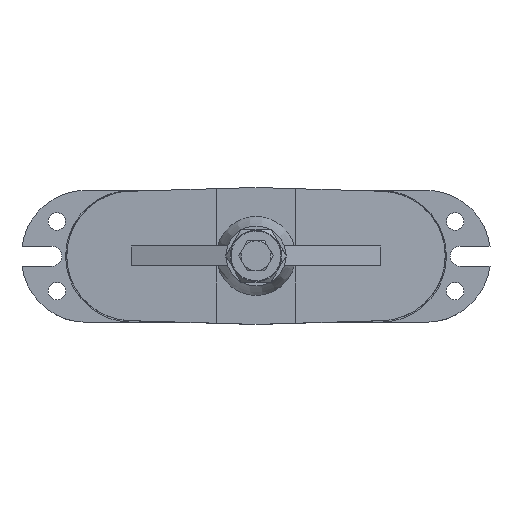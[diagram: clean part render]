
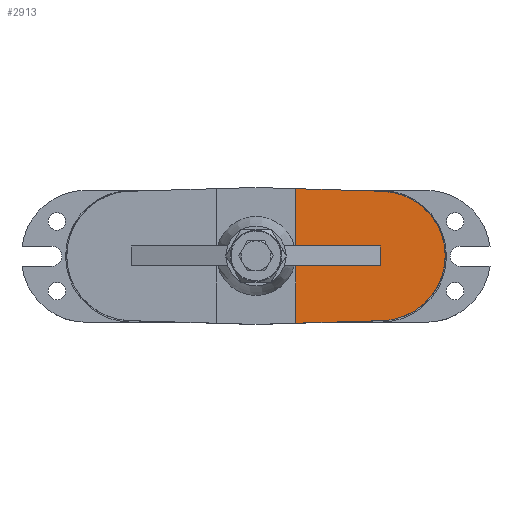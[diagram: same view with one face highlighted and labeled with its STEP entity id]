
A CAD part, top view. The second image highlights one B-rep face of the part: STEP entity #2913.
In plain terms, the highlighted planar face has unit normal (0.033, 0, 0.999).
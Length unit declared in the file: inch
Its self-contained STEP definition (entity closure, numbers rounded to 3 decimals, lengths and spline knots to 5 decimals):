
#65=ELLIPSE('',#3169,1.6259,1.625);
#141=PLANE('',#3177);
#269=LINE('',#4401,#461);
#271=LINE('',#4405,#463);
#274=LINE('',#4411,#466);
#276=LINE('',#4414,#468);
#307=LINE('',#4712,#499);
#315=LINE('',#4729,#507);
#316=LINE('',#4730,#508);
#461=VECTOR('',#3569,1.43898);
#463=VECTOR('',#3573,2.12618);
#466=VECTOR('',#3578,2.12618);
#468=VECTOR('',#3582,0.5);
#499=VECTOR('',#3757,2.17552);
#507=VECTOR('',#3779,2.17552);
#508=VECTOR('',#3780,1.43898);
#727=FACE_OUTER_BOUND('',#929,.T.);
#929=EDGE_LOOP('',(#2228,#2229,#2230,#2231,#2232,#2233,#2234,#2235));
#1277=VERTEX_POINT('',#4398);
#1278=VERTEX_POINT('',#4400);
#1279=VERTEX_POINT('',#4404);
#1280=VERTEX_POINT('',#4408);
#1281=VERTEX_POINT('',#4410);
#1332=VERTEX_POINT('',#4702);
#1333=VERTEX_POINT('',#4704);
#1335=VERTEX_POINT('',#4710);
#1573=EDGE_CURVE('',#1277,#1278,#269,.T.);
#1575=EDGE_CURVE('',#1279,#1278,#271,.T.);
#1578=EDGE_CURVE('',#1281,#1280,#274,.T.);
#1580=EDGE_CURVE('',#1280,#1279,#276,.T.);
#1656=EDGE_CURVE('',#1332,#1333,#65,.T.);
#1660=EDGE_CURVE('',#1335,#1332,#307,.T.);
#1669=EDGE_CURVE('',#1333,#1277,#315,.T.);
#1670=EDGE_CURVE('',#1281,#1335,#316,.T.);
#2228=ORIENTED_EDGE('',*,*,#1575,.T.);
#2229=ORIENTED_EDGE('',*,*,#1573,.F.);
#2230=ORIENTED_EDGE('',*,*,#1669,.F.);
#2231=ORIENTED_EDGE('',*,*,#1656,.F.);
#2232=ORIENTED_EDGE('',*,*,#1660,.F.);
#2233=ORIENTED_EDGE('',*,*,#1670,.F.);
#2234=ORIENTED_EDGE('',*,*,#1578,.T.);
#2235=ORIENTED_EDGE('',*,*,#1580,.T.);
#2913=ADVANCED_FACE('',(#727),#141,.F.);
#3169=AXIS2_PLACEMENT_3D('',#4705,#3750,#3751);
#3177=AXIS2_PLACEMENT_3D('',#4728,#3777,#3778);
#3569=DIRECTION('',(0.,1.,0.));
#3573=DIRECTION('',(-0.999,0.,0.033));
#3578=DIRECTION('',(0.999,0.,-0.033));
#3582=DIRECTION('',(0.,-1.,0.));
#3750=DIRECTION('center_axis',(-0.033,0.,
-0.999));
#3751=DIRECTION('ref_axis',(0.999,0.,-0.033));
#3757=DIRECTION('',(0.999,-0.03,-0.033));
#3777=DIRECTION('center_axis',(-0.033,0.,
-0.999));
#3778=DIRECTION('ref_axis',(0.999,0.,-0.033));
#3779=DIRECTION('',(-0.999,-0.03,0.033));
#3780=DIRECTION('',(0.,1.,0.));
#4398=CARTESIAN_POINT('',(1.,-1.68898,5.5));
#4400=CARTESIAN_POINT('',(1.,-0.25,5.5));
#4401=CARTESIAN_POINT('',(1.,0.,5.5));
#4404=CARTESIAN_POINT('',(3.125,-0.25,5.42917));
#4405=CARTESIAN_POINT('',(3.24869,-0.25,5.42504));
#4408=CARTESIAN_POINT('',(3.125,0.25,5.42917));
#4410=CARTESIAN_POINT('',(1.,0.25,5.5));
#4411=CARTESIAN_POINT('',(3.24869,0.25,5.42504));
#4414=CARTESIAN_POINT('',(3.125,0.,5.42917));
#4702=CARTESIAN_POINT('',(3.17335,1.62428,5.42755));
#4704=CARTESIAN_POINT('',(3.17335,-1.62428,5.42755));
#4705=CARTESIAN_POINT('Origin',(3.125,0.,5.42917));
#4710=CARTESIAN_POINT('',(1.,1.68898,5.5));
#4712=CARTESIAN_POINT('',(2.40314,1.64721,5.45323));
#4728=CARTESIAN_POINT('Origin',(4.75,0.,
5.375));
#4729=CARTESIAN_POINT('',(3.98806,-1.60003,5.4004));
#4730=CARTESIAN_POINT('',(1.,0.,5.5));
